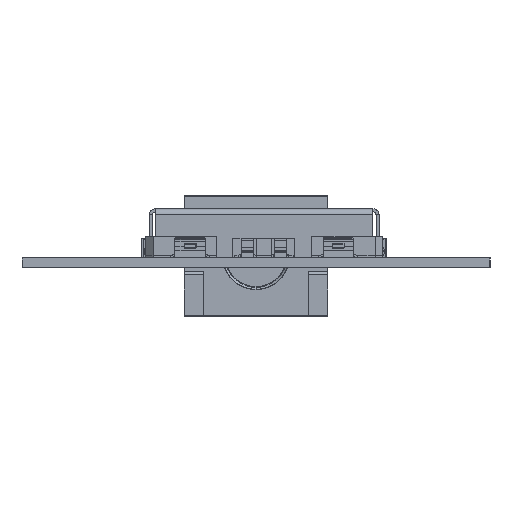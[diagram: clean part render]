
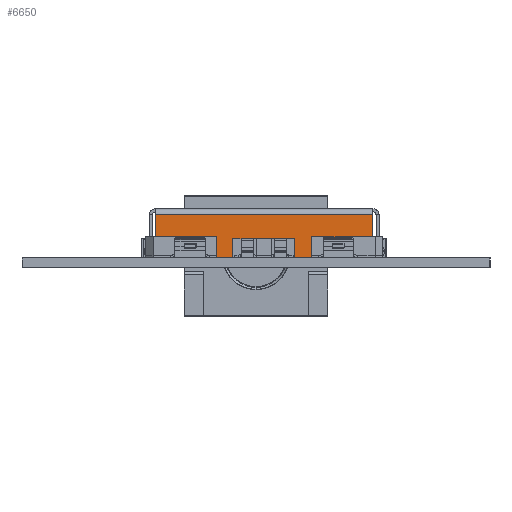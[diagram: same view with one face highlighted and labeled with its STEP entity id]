
A CAD part, left-side view. The second image highlights one B-rep face of the part: STEP entity #6650.
In plain terms, the highlighted planar face has unit normal (-1, 0, 0) as drawn and (0, 0, -1) by its records, which use the part's own axes.
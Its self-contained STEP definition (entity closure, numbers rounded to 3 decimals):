
#6597 = VERTEX_POINT('',#6598);
#6598 = CARTESIAN_POINT('',(7.2,-0.4,-10.1));
#6630 = VERTEX_POINT('',#6631);
#6631 = CARTESIAN_POINT('',(-7.2,-0.4,-10.1));
#6640 = EDGE_CURVE('',#6630,#6597,#6641,.T.);
#6641 = LINE('',#6642,#6643);
#6642 = CARTESIAN_POINT('',(-7.2,-0.4,-10.1));
#6643 = VECTOR('',#6644,1.);
#6644 = DIRECTION('',(1.,0.,0.));
#6650 = ADVANCED_FACE('',(#6651),#6676,.T.);
#6651 = FACE_BOUND('',#6652,.F.);
#6652 = EDGE_LOOP('',(#6653,#6661,#6662,#6670));
#6653 = ORIENTED_EDGE('',*,*,#6654,.F.);
#6654 = EDGE_CURVE('',#6597,#6655,#6657,.T.);
#6655 = VERTEX_POINT('',#6656);
#6656 = CARTESIAN_POINT('',(7.2,-3.2,-10.1));
#6657 = LINE('',#6658,#6659);
#6658 = CARTESIAN_POINT('',(7.2,-0.4,-10.1));
#6659 = VECTOR('',#6660,1.);
#6660 = DIRECTION('',(0.,-1.,0.));
#6661 = ORIENTED_EDGE('',*,*,#6640,.F.);
#6662 = ORIENTED_EDGE('',*,*,#6663,.F.);
#6663 = EDGE_CURVE('',#6664,#6630,#6666,.T.);
#6664 = VERTEX_POINT('',#6665);
#6665 = CARTESIAN_POINT('',(-7.2,-3.2,-10.1));
#6666 = LINE('',#6667,#6668);
#6667 = CARTESIAN_POINT('',(-7.2,-3.2,-10.1));
#6668 = VECTOR('',#6669,1.);
#6669 = DIRECTION('',(0.,1.,0.));
#6670 = ORIENTED_EDGE('',*,*,#6671,.F.);
#6671 = EDGE_CURVE('',#6655,#6664,#6672,.T.);
#6672 = LINE('',#6673,#6674);
#6673 = CARTESIAN_POINT('',(7.2,-3.2,-10.1));
#6674 = VECTOR('',#6675,1.);
#6675 = DIRECTION('',(-1.,0.,0.));
#6676 = PLANE('',#6677);
#6677 = AXIS2_PLACEMENT_3D('',#6678,#6679,#6680);
#6678 = CARTESIAN_POINT('',(7.2,0.,-10.1));
#6679 = DIRECTION('',(0.,0.,-1.));
#6680 = DIRECTION('',(1.,0.,0.));
